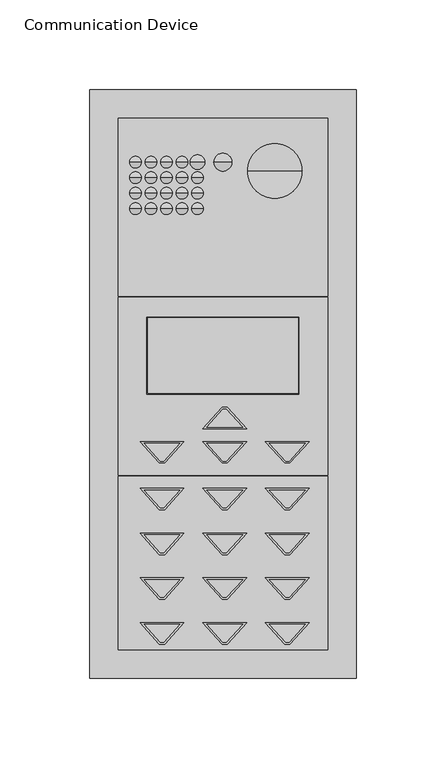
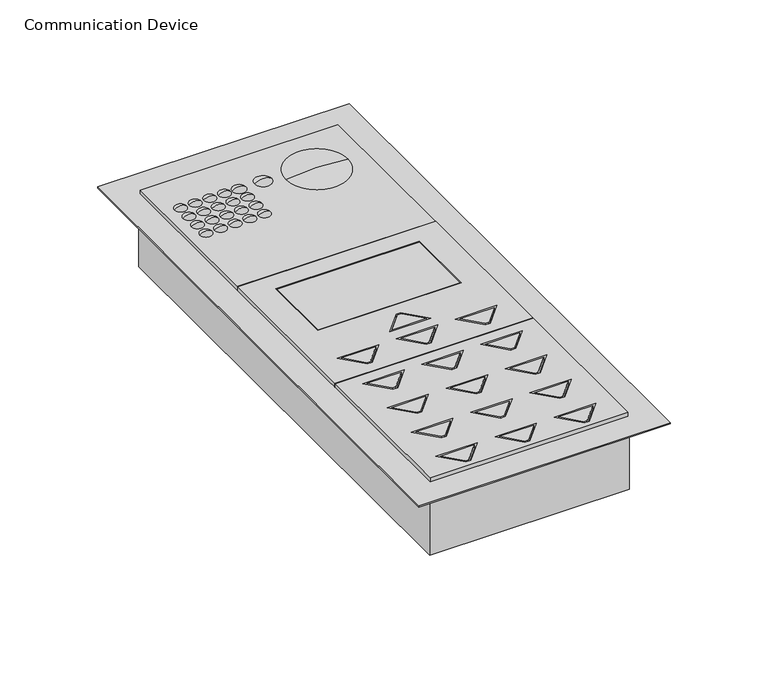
"""IFC4 building model written with IfcOpenShell, lengths in millimetres: electric appliance geometry, E_Communication Device_Intercom_F_MEPcontent_Recessed_Generic : Communication Device."""

from ifc_helpers import new_model, si_unit, point, frame, origin, origin_with_axes, place, context, project, spatial, polyline, circle_curve, ellipse_curve, trimmed, outline, extrude, source, transform, mapped, element, save
from ifc_brep_helpers import plane_surface, revolved_surface, advanced_brep


def communication_device_4de170aa(model_context):
    return source(origin(), model_context, "Body", "SolidModel", [
        advanced_brep(
        [(0.0, 123.9188347, 4.5754841), (-5.0, 123.9188347, 3.0), (5.0, 123.9188347, 3.0), (0.0, 123.9188347, 3.0)],
        [
            (0, 1, circle_curve(frame((0.006244, 123.9188347, -4.1661434), z_axis=(0.0, -1.0, 0.0), x_axis=(-1.0, 0.0, 0.0)), 8.7416297)),
            (1, 2, circle_curve(frame((0.0, 123.9188347, 3.0), z_axis=(0.0, 0.0, 1.0), x_axis=(-1.0, 0.0, 0.0)), 5.0)),
            (2, 0, circle_curve(frame((-0.006244, 123.9188347, -4.1661434), z_axis=(0.0, -1.0, 0.0), x_axis=(1.0, 0.0, 0.0)), 8.7416297)),
            (2, 1, circle_curve(frame((0.0, 123.9188347, 3.0), z_axis=(0.0, 0.0, 1.0), x_axis=(-1.0, 0.0, 0.0)), 5.0)),
            (1, 3),
            (3, 2),
        ],
        [
            revolved_surface(trimmed(ellipse_curve(frame((0.006244, 123.9188347, -4.1661434), z_axis=(0.0, 1.0, 0.0), x_axis=(-1.0, 0.0, 0.0)), 8.7416297, 8.7416297), [point((-5.0, 123.9188347, 3.0))], [point((0.0, 123.9188347, 4.5754841))], True, "CARTESIAN"), (0.0, 123.9188347, 2609.0581012), (0.0, 0.0, 1.0)),
            plane_surface(frame((0.0, 123.9188347, 3.0), z_axis=(0.0, 0.0, -1.0), x_axis=(-1.0, 0.0, 0.0))),
        ],
        [
            (0, [[1, 2, 3]]),
            (0, [[-3, 4, -1]]),
            (1, [[-2, 5, 6]]),
            (1, [[-4, -6, -5]]),
        ],
    ),
        advanced_brep(
        [(-14.2, 123.9188347, 4.5754841), (-18.2324586, 123.9188347, 3.0), (-10.1675414, 123.9188347, 3.0), (-14.2, 123.9188347, 3.0)],
        [
            (0, 1, circle_curve(frame((-14.1775015, 123.9188347, -1.4303907), z_axis=(0.0, -1.0, 0.0), x_axis=(-1.0, 0.0, 0.0)), 6.0059169)),
            (1, 2, circle_curve(frame((-14.2, 123.9188347, 3.0), z_axis=(0.0, 0.0, 1.0), x_axis=(-1.0, 0.0, 0.0)), 4.0324586)),
            (2, 0, circle_curve(frame((-14.2224985, 123.9188347, -1.4303907), z_axis=(0.0, -1.0, 0.0), x_axis=(1.0, 0.0, 0.0)), 6.0059169)),
            (2, 1, circle_curve(frame((-14.2, 123.9188347, 3.0), z_axis=(0.0, 0.0, 1.0), x_axis=(-1.0, 0.0, 0.0)), 4.0324586)),
            (1, 3),
            (3, 2),
        ],
        [
            revolved_surface(trimmed(ellipse_curve(frame((-14.1775015, 123.9188347, -1.4303907), z_axis=(0.0, 1.0, 0.0), x_axis=(-1.0, 0.0, 0.0)), 6.0059169, 6.0059169), [point((-18.2324586, 123.9188347, 3.0))], [point((-14.2, 123.9188347, 4.5754841))], True, "CARTESIAN"), (-14.2, 123.9188347, 2438.4), (0.0, 0.0, 1.0)),
            plane_surface(frame((-14.2, 123.9188347, 3.0), z_axis=(0.0, 0.0, -1.0), x_axis=(-1.0, 0.0, 0.0))),
        ],
        [
            (0, [[1, 2, 3]]),
            (0, [[-3, 4, -1]]),
            (1, [[-2, 5, 6]]),
            (1, [[-4, -6, -5]]),
        ],
    ),
        extrude(outline(polyline([(-58.5, 148.5), (58.5, 148.5), (58.5, 49.0), (-58.5, 49.0), (-58.5, 148.5)])), origin_with_axes(), (0.0, 0.0, 1.0), 3.0),
        extrude(outline(polyline([(-58.5, -51.0), (-58.5, 48.5), (58.5, 48.5), (58.5, -51.0), (-58.5, -51.0)]), holes=[polyline([(-11.2453624, -25.1258805), (13.2453624, -25.1258805), (2.4453624, -13.1258805), (-0.4453624, -13.1258805), (-11.2453624, -25.1258805)]), polyline([(-32.5546376, -44.1258805), (-21.7546376, -32.1258805), (-46.2453624, -32.1258805), (-35.4453624, -44.1258805), (-32.5546376, -44.1258805)]), polyline([(-0.4453624, -44.1258805), (2.4453624, -44.1258805), (13.2453624, -32.1258805), (-11.2453624, -32.1258805), (-0.4453624, -44.1258805)]), polyline([(34.5546376, -44.1258805), (37.4453624, -44.1258805), (48.2453624, -32.1258805), (23.7546376, -32.1258805), (34.5546376, -44.1258805)]), polyline([(42.5, -5.6258805), (42.5, 37.3741195), (-42.5, 37.3741195), (-42.5, -5.6258805), (42.5, -5.6258805)])]), origin_with_axes(), (0.0, 0.0, 1.0), 3.0),
        extrude(outline(polyline([(-58.5, -51.5), (58.5, -51.5), (58.5, -148.5), (-58.5, -148.5), (-58.5, -51.5)]), holes=[polyline([(-46.2453624, -58.25), (-35.4453624, -70.25), (-32.5546376, -70.25), (-21.7546376, -58.25), (-46.2453624, -58.25)]), polyline([(-0.4453624, -70.25), (2.4453624, -70.25), (13.2453624, -58.25), (-11.2453624, -58.25), (-0.4453624, -70.25)]), polyline([(34.5546376, -70.25), (37.4453624, -70.25), (48.2453624, -58.25), (23.7546376, -58.25), (34.5546376, -70.25)]), polyline([(23.7546376, -83.25), (34.5546376, -95.25), (37.4453624, -95.25), (48.2453624, -83.25), (23.7546376, -83.25)]), polyline([(13.2453624, -83.25), (-11.2453624, -83.25), (-0.4453624, -95.25), (2.4453624, -95.25), (13.2453624, -83.25)]), polyline([(-21.7546376, -83.25), (-46.2453624, -83.25), (-35.4453624, -95.25), (-32.5546376, -95.25), (-21.7546376, -83.25)]), polyline([(-32.5546376, -120.25), (-21.7546376, -108.25), (-46.2453624, -108.25), (-35.4453624, -120.25), (-32.5546376, -120.25)]), polyline([(-0.4453624, -120.25), (2.4453624, -120.25), (13.2453624, -108.25), (-11.2453624, -108.25), (-0.4453624, -120.25)]), polyline([(37.4453624, -120.25), (48.2453624, -108.25), (23.7546376, -108.25), (34.5546376, -120.25), (37.4453624, -120.25)]), polyline([(23.7546376, -133.25), (34.5546376, -145.25), (37.4453624, -145.25), (48.2453624, -133.25), (23.7546376, -133.25)]), polyline([(13.2453624, -133.25), (-11.2453624, -133.25), (-0.4453624, -145.25), (2.4453624, -145.25), (13.2453624, -133.25)]), polyline([(-32.5546376, -145.25), (-21.7546376, -133.25), (-46.2453624, -133.25), (-35.4453624, -145.25), (-32.5546376, -145.25)])]), origin_with_axes(), (0.0, 0.0, 1.0), 3.0),
        extrude(outline(polyline([(37.0, -144.25), (35.0, -144.25), (26.0, -134.25), (46.0, -134.25), (37.0, -144.25)])), origin_with_axes(), (0.0, 0.0, 1.0), 3.0),
        extrude(outline(polyline([(2.0, -144.25), (0.0, -144.25), (-9.0, -134.25), (11.0, -134.25), (2.0, -144.25)])), origin_with_axes(), (0.0, 0.0, 1.0), 3.0),
        extrude(outline(polyline([(-33.0, -144.25), (-35.0, -144.25), (-44.0, -134.25), (-24.0, -134.25), (-33.0, -144.25)])), origin_with_axes(), (0.0, 0.0, 1.0), 3.0),
        extrude(outline(polyline([(-33.0, -119.25), (-35.0, -119.25), (-44.0, -109.25), (-24.0, -109.25), (-33.0, -119.25)])), origin_with_axes(), (0.0, 0.0, 1.0), 3.0),
        extrude(outline(polyline([(2.0, -119.25), (0.0, -119.25), (-9.0, -109.25), (11.0, -109.25), (2.0, -119.25)])), origin_with_axes(), (0.0, 0.0, 1.0), 3.0),
        extrude(outline(polyline([(37.0, -119.25), (35.0, -119.25), (26.0, -109.25), (46.0, -109.25), (37.0, -119.25)])), origin_with_axes(), (0.0, 0.0, 1.0), 3.0),
        extrude(outline(polyline([(37.0, -94.25), (35.0, -94.25), (26.0, -84.25), (46.0, -84.25), (37.0, -94.25)])), origin_with_axes(), (0.0, 0.0, 1.0), 3.0),
        extrude(outline(polyline([(2.0, -94.25), (0.0, -94.25), (-9.0, -84.25), (11.0, -84.25), (2.0, -94.25)])), origin_with_axes(), (0.0, 0.0, 1.0), 3.0),
        extrude(outline(polyline([(-33.0, -94.25), (-35.0, -94.25), (-44.0, -84.25), (-24.0, -84.25), (-33.0, -94.25)])), origin_with_axes(), (0.0, 0.0, 1.0), 3.0),
        extrude(outline(polyline([(-33.0, -69.25), (-35.0, -69.25), (-44.0, -59.25), (-24.0, -59.25), (-33.0, -69.25)])), frame((0.0, 0.0, 0.8241878), z_axis=(0.0, 0.0, 1.0), x_axis=(1.0, 0.0, 0.0)), (0.0, 0.0, 1.0), 2.1758122),
        extrude(outline(polyline([(2.0, -69.25), (0.0, -69.25), (-9.0, -59.25), (11.0, -59.25), (2.0, -69.25)])), frame((0.0, 0.0, 0.8241878), z_axis=(0.0, 0.0, 1.0), x_axis=(1.0, 0.0, 0.0)), (0.0, 0.0, 1.0), 2.1758122),
        extrude(outline(polyline([(-33.0, -43.1258805), (-35.0, -43.1258805), (-44.0, -33.1258805), (-24.0, -33.1258805), (-33.0, -43.1258805)])), frame((0.0, 0.0, 0.8241878), z_axis=(0.0, 0.0, 1.0), x_axis=(1.0, 0.0, 0.0)), (0.0, 0.0, 1.0), 2.1758122),
        extrude(outline(polyline([(2.0, -43.1258805), (0.0, -43.1258805), (-9.0, -33.1258805), (11.0, -33.1258805), (2.0, -43.1258805)])), frame((0.0, 0.0, 0.8241878), z_axis=(0.0, 0.0, 1.0), x_axis=(1.0, 0.0, 0.0)), (0.0, 0.0, 1.0), 2.1758122),
        extrude(outline(polyline([(37.0, -43.1258805), (35.0, -43.1258805), (26.0, -33.1258805), (46.0, -33.1258805), (37.0, -43.1258805)])), frame((0.0, 0.0, 0.8241878), z_axis=(0.0, 0.0, 1.0), x_axis=(1.0, 0.0, 0.0)), (0.0, 0.0, 1.0), 2.1758122),
        extrude(outline(polyline([(37.0, -69.25), (35.0, -69.25), (26.0, -59.25), (46.0, -59.25), (37.0, -69.25)])), origin_with_axes(), (0.0, 0.0, 1.0), 3.0),
        extrude(outline(polyline([(0.0, -14.1258805), (2.0, -14.1258805), (11.0, -24.1258805), (-9.0, -24.1258805), (0.0, -14.1258805)])), frame((0.0, 0.0, 0.8241878), z_axis=(0.0, 0.0, 1.0), x_axis=(1.0, 0.0, 0.0)), (0.0, 0.0, 1.0), 2.1758122),
        advanced_brep(
        [(-14.2, 97.9388347, 4.5754841), (-18.2324586, 97.9388347, 3.0), (-10.1675414, 97.9388347, 3.0), (-14.2, 97.9388347, 3.0)],
        [
            (0, 1, circle_curve(frame((-14.1775015, 97.9388347, -1.4303907), z_axis=(0.0, -1.0, 0.0), x_axis=(-1.0, 0.0, 0.0)), 6.0059169)),
            (1, 2, circle_curve(frame((-14.2, 97.9388347, 3.0), z_axis=(0.0, 0.0, 1.0), x_axis=(-1.0, 0.0, 0.0)), 4.0324586)),
            (2, 0, circle_curve(frame((-14.2224985, 97.9388347, -1.4303907), z_axis=(0.0, -1.0, 0.0), x_axis=(1.0, 0.0, 0.0)), 6.0059169)),
            (2, 1, circle_curve(frame((-14.2, 97.9388347, 3.0), z_axis=(0.0, 0.0, 1.0), x_axis=(-1.0, 0.0, 0.0)), 4.0324586)),
            (1, 3),
            (3, 2),
        ],
        [
            revolved_surface(trimmed(ellipse_curve(frame((-14.1775015, 97.9388347, -1.4303907), z_axis=(0.0, 1.0, 0.0), x_axis=(-1.0, 0.0, 0.0)), 6.0059169, 6.0059169), [point((-18.2324586, 97.9388347, 3.0))], [point((-14.2, 97.9388347, 4.5754841))], True, "CARTESIAN"), (-14.2, 97.9388347, 2438.4), (0.0, 0.0, 1.0)),
            plane_surface(frame((-14.2, 97.9388347, 3.0), z_axis=(0.0, 0.0, -1.0), x_axis=(-1.0, 0.0, 0.0))),
        ],
        [
            (0, [[1, 2, 3]]),
            (0, [[-3, 4, -1]]),
            (1, [[-2, 5, 6]]),
            (1, [[-4, -6, -5]]),
        ],
    ),
        advanced_brep(
        [(-22.86, 97.9388347, 4.5754841), (-26.8924586, 97.9388347, 3.0), (-18.8275414, 97.9388347, 3.0), (-22.86, 97.9388347, 3.0)],
        [
            (0, 1, circle_curve(frame((-22.8375015, 97.9388347, -1.4303907), z_axis=(0.0, -1.0, 0.0), x_axis=(-1.0, 0.0, 0.0)), 6.0059169)),
            (1, 2, circle_curve(frame((-22.86, 97.9388347, 3.0), z_axis=(0.0, 0.0, 1.0), x_axis=(-1.0, 0.0, 0.0)), 4.0324586)),
            (2, 0, circle_curve(frame((-22.8824985, 97.9388347, -1.4303907), z_axis=(0.0, -1.0, 0.0), x_axis=(1.0, 0.0, 0.0)), 6.0059169)),
            (2, 1, circle_curve(frame((-22.86, 97.9388347, 3.0), z_axis=(0.0, 0.0, 1.0), x_axis=(-1.0, 0.0, 0.0)), 4.0324586)),
            (1, 3),
            (3, 2),
        ],
        [
            revolved_surface(trimmed(ellipse_curve(frame((-22.8375015, 97.9388347, -1.4303907), z_axis=(0.0, 1.0, 0.0), x_axis=(-1.0, 0.0, 0.0)), 6.0059169, 6.0059169), [point((-26.8924586, 97.9388347, 3.0))], [point((-22.86, 97.9388347, 4.5754841))], True, "CARTESIAN"), (-22.86, 97.9388347, 2438.4), (0.0, 0.0, 1.0)),
            plane_surface(frame((-22.86, 97.9388347, 3.0), z_axis=(0.0, 0.0, -1.0), x_axis=(-1.0, 0.0, 0.0))),
        ],
        [
            (0, [[1, 2, 3]]),
            (0, [[-3, 4, -1]]),
            (1, [[-2, 5, 6]]),
            (1, [[-4, -6, -5]]),
        ],
    ),
        advanced_brep(
        [(-31.52, 97.9388347, 4.5754841), (-35.5524586, 97.9388347, 3.0), (-27.4875414, 97.9388347, 3.0), (-31.52, 97.9388347, 3.0)],
        [
            (0, 1, circle_curve(frame((-31.4975015, 97.9388347, -1.4303907), z_axis=(0.0, -1.0, 0.0), x_axis=(-1.0, 0.0, 0.0)), 6.0059169)),
            (1, 2, circle_curve(frame((-31.52, 97.9388347, 3.0), z_axis=(0.0, 0.0, 1.0), x_axis=(-1.0, 0.0, 0.0)), 4.0324586)),
            (2, 0, circle_curve(frame((-31.5424985, 97.9388347, -1.4303907), z_axis=(0.0, -1.0, 0.0), x_axis=(1.0, 0.0, 0.0)), 6.0059169)),
            (2, 1, circle_curve(frame((-31.52, 97.9388347, 3.0), z_axis=(0.0, 0.0, 1.0), x_axis=(-1.0, 0.0, 0.0)), 4.0324586)),
            (1, 3),
            (3, 2),
        ],
        [
            revolved_surface(trimmed(ellipse_curve(frame((-31.4975015, 97.9388347, -1.4303907), z_axis=(0.0, 1.0, 0.0), x_axis=(-1.0, 0.0, 0.0)), 6.0059169, 6.0059169), [point((-35.5524586, 97.9388347, 3.0))], [point((-31.52, 97.9388347, 4.5754841))], True, "CARTESIAN"), (-31.52, 97.9388347, 2438.4), (0.0, 0.0, 1.0)),
            plane_surface(frame((-31.52, 97.9388347, 3.0), z_axis=(0.0, 0.0, -1.0), x_axis=(-1.0, 0.0, 0.0))),
        ],
        [
            (0, [[1, 2, 3]]),
            (0, [[-3, 4, -1]]),
            (1, [[-2, 5, 6]]),
            (1, [[-4, -6, -5]]),
        ],
    ),
        advanced_brep(
        [(-40.18, 97.9388347, 4.5754841), (-44.2124586, 97.9388347, 3.0), (-36.1475414, 97.9388347, 3.0), (-40.18, 97.9388347, 3.0)],
        [
            (0, 1, circle_curve(frame((-40.1575015, 97.9388347, -1.4303907), z_axis=(0.0, -1.0, 0.0), x_axis=(-1.0, 0.0, 0.0)), 6.0059169)),
            (1, 2, circle_curve(frame((-40.18, 97.9388347, 3.0), z_axis=(0.0, 0.0, 1.0), x_axis=(-1.0, 0.0, 0.0)), 4.0324586)),
            (2, 0, circle_curve(frame((-40.2024985, 97.9388347, -1.4303907), z_axis=(0.0, -1.0, 0.0), x_axis=(1.0, 0.0, 0.0)), 6.0059169)),
            (2, 1, circle_curve(frame((-40.18, 97.9388347, 3.0), z_axis=(0.0, 0.0, 1.0), x_axis=(-1.0, 0.0, 0.0)), 4.0324586)),
            (1, 3),
            (3, 2),
        ],
        [
            revolved_surface(trimmed(ellipse_curve(frame((-40.1575015, 97.9388347, -1.4303907), z_axis=(0.0, 1.0, 0.0), x_axis=(-1.0, 0.0, 0.0)), 6.0059169, 6.0059169), [point((-44.2124586, 97.9388347, 3.0))], [point((-40.18, 97.9388347, 4.5754841))], True, "CARTESIAN"), (-40.18, 97.9388347, 2438.4), (0.0, 0.0, 1.0)),
            plane_surface(frame((-40.18, 97.9388347, 3.0), z_axis=(0.0, 0.0, -1.0), x_axis=(-1.0, 0.0, 0.0))),
        ],
        [
            (0, [[1, 2, 3]]),
            (0, [[-3, 4, -1]]),
            (1, [[-2, 5, 6]]),
            (1, [[-4, -6, -5]]),
        ],
    ),
        advanced_brep(
        [(-48.84, 97.9388347, 4.5754841), (-52.8724586, 97.9388347, 3.0), (-44.8075414, 97.9388347, 3.0), (-48.84, 97.9388347, 3.0)],
        [
            (0, 1, circle_curve(frame((-48.8175015, 97.9388347, -1.4303907), z_axis=(0.0, -1.0, 0.0), x_axis=(-1.0, 0.0, 0.0)), 6.0059169)),
            (1, 2, circle_curve(frame((-48.84, 97.9388347, 3.0), z_axis=(0.0, 0.0, 1.0), x_axis=(-1.0, 0.0, 0.0)), 4.0324586)),
            (2, 0, circle_curve(frame((-48.8624985, 97.9388347, -1.4303907), z_axis=(0.0, -1.0, 0.0), x_axis=(1.0, 0.0, 0.0)), 6.0059169)),
            (2, 1, circle_curve(frame((-48.84, 97.9388347, 3.0), z_axis=(0.0, 0.0, 1.0), x_axis=(-1.0, 0.0, 0.0)), 4.0324586)),
            (1, 3),
            (3, 2),
        ],
        [
            revolved_surface(trimmed(ellipse_curve(frame((-48.8175015, 97.9388347, -1.4303907), z_axis=(0.0, 1.0, 0.0), x_axis=(-1.0, 0.0, 0.0)), 6.0059169, 6.0059169), [point((-52.8724586, 97.9388347, 3.0))], [point((-48.84, 97.9388347, 4.5754841))], True, "CARTESIAN"), (-48.84, 97.9388347, 2438.4), (0.0, 0.0, 1.0)),
            plane_surface(frame((-48.84, 97.9388347, 3.0), z_axis=(0.0, 0.0, -1.0), x_axis=(-1.0, 0.0, 0.0))),
        ],
        [
            (0, [[1, 2, 3]]),
            (0, [[-3, 4, -1]]),
            (1, [[-2, 5, 6]]),
            (1, [[-4, -6, -5]]),
        ],
    ),
        advanced_brep(
        [(-14.2, 106.5988347, 4.5754841), (-18.2324586, 106.5988347, 3.0), (-10.1675414, 106.5988347, 3.0), (-14.2, 106.5988347, 3.0)],
        [
            (0, 1, circle_curve(frame((-14.1775015, 106.5988347, -1.4303907), z_axis=(0.0, -1.0, 0.0), x_axis=(-1.0, 0.0, 0.0)), 6.0059169)),
            (1, 2, circle_curve(frame((-14.2, 106.5988347, 3.0), z_axis=(0.0, 0.0, 1.0), x_axis=(-1.0, 0.0, 0.0)), 4.0324586)),
            (2, 0, circle_curve(frame((-14.2224985, 106.5988347, -1.4303907), z_axis=(0.0, -1.0, 0.0), x_axis=(1.0, 0.0, 0.0)), 6.0059169)),
            (2, 1, circle_curve(frame((-14.2, 106.5988347, 3.0), z_axis=(0.0, 0.0, 1.0), x_axis=(-1.0, 0.0, 0.0)), 4.0324586)),
            (1, 3),
            (3, 2),
        ],
        [
            revolved_surface(trimmed(ellipse_curve(frame((-14.1775015, 106.5988347, -1.4303907), z_axis=(0.0, 1.0, 0.0), x_axis=(-1.0, 0.0, 0.0)), 6.0059169, 6.0059169), [point((-18.2324586, 106.5988347, 3.0))], [point((-14.2, 106.5988347, 4.5754841))], True, "CARTESIAN"), (-14.2, 106.5988347, 2438.4), (0.0, 0.0, 1.0)),
            plane_surface(frame((-14.2, 106.5988347, 3.0), z_axis=(0.0, 0.0, -1.0), x_axis=(-1.0, 0.0, 0.0))),
        ],
        [
            (0, [[1, 2, 3]]),
            (0, [[-3, 4, -1]]),
            (1, [[-2, 5, 6]]),
            (1, [[-4, -6, -5]]),
        ],
    ),
        advanced_brep(
        [(-22.86, 106.5988347, 4.5754841), (-26.8924586, 106.5988347, 3.0), (-18.8275414, 106.5988347, 3.0), (-22.86, 106.5988347, 3.0)],
        [
            (0, 1, circle_curve(frame((-22.8375015, 106.5988347, -1.4303907), z_axis=(0.0, -1.0, 0.0), x_axis=(-1.0, 0.0, 0.0)), 6.0059169)),
            (1, 2, circle_curve(frame((-22.86, 106.5988347, 3.0), z_axis=(0.0, 0.0, 1.0), x_axis=(-1.0, 0.0, 0.0)), 4.0324586)),
            (2, 0, circle_curve(frame((-22.8824985, 106.5988347, -1.4303907), z_axis=(0.0, -1.0, 0.0), x_axis=(1.0, 0.0, 0.0)), 6.0059169)),
            (2, 1, circle_curve(frame((-22.86, 106.5988347, 3.0), z_axis=(0.0, 0.0, 1.0), x_axis=(-1.0, 0.0, 0.0)), 4.0324586)),
            (1, 3),
            (3, 2),
        ],
        [
            revolved_surface(trimmed(ellipse_curve(frame((-22.8375015, 106.5988347, -1.4303907), z_axis=(0.0, 1.0, 0.0), x_axis=(-1.0, 0.0, 0.0)), 6.0059169, 6.0059169), [point((-26.8924586, 106.5988347, 3.0))], [point((-22.86, 106.5988347, 4.5754841))], True, "CARTESIAN"), (-22.86, 106.5988347, 2438.4), (0.0, 0.0, 1.0)),
            plane_surface(frame((-22.86, 106.5988347, 3.0), z_axis=(0.0, 0.0, -1.0), x_axis=(-1.0, 0.0, 0.0))),
        ],
        [
            (0, [[1, 2, 3]]),
            (0, [[-3, 4, -1]]),
            (1, [[-2, 5, 6]]),
            (1, [[-4, -6, -5]]),
        ],
    ),
        advanced_brep(
        [(-31.52, 106.5988347, 4.5754841), (-35.5524586, 106.5988347, 3.0), (-27.4875414, 106.5988347, 3.0), (-31.52, 106.5988347, 3.0)],
        [
            (0, 1, circle_curve(frame((-31.4975015, 106.5988347, -1.4303907), z_axis=(0.0, -1.0, 0.0), x_axis=(-1.0, 0.0, 0.0)), 6.0059169)),
            (1, 2, circle_curve(frame((-31.52, 106.5988347, 3.0), z_axis=(0.0, 0.0, 1.0), x_axis=(-1.0, 0.0, 0.0)), 4.0324586)),
            (2, 0, circle_curve(frame((-31.5424985, 106.5988347, -1.4303907), z_axis=(0.0, -1.0, 0.0), x_axis=(1.0, 0.0, 0.0)), 6.0059169)),
            (2, 1, circle_curve(frame((-31.52, 106.5988347, 3.0), z_axis=(0.0, 0.0, 1.0), x_axis=(-1.0, 0.0, 0.0)), 4.0324586)),
            (1, 3),
            (3, 2),
        ],
        [
            revolved_surface(trimmed(ellipse_curve(frame((-31.4975015, 106.5988347, -1.4303907), z_axis=(0.0, 1.0, 0.0), x_axis=(-1.0, 0.0, 0.0)), 6.0059169, 6.0059169), [point((-35.5524586, 106.5988347, 3.0))], [point((-31.52, 106.5988347, 4.5754841))], True, "CARTESIAN"), (-31.52, 106.5988347, 2438.4), (0.0, 0.0, 1.0)),
            plane_surface(frame((-31.52, 106.5988347, 3.0), z_axis=(0.0, 0.0, -1.0), x_axis=(-1.0, 0.0, 0.0))),
        ],
        [
            (0, [[1, 2, 3]]),
            (0, [[-3, 4, -1]]),
            (1, [[-2, 5, 6]]),
            (1, [[-4, -6, -5]]),
        ],
    ),
        advanced_brep(
        [(-40.18, 106.5988347, 4.5754841), (-44.2124586, 106.5988347, 3.0), (-36.1475414, 106.5988347, 3.0), (-40.18, 106.5988347, 3.0)],
        [
            (0, 1, circle_curve(frame((-40.1575015, 106.5988347, -1.4303907), z_axis=(0.0, -1.0, 0.0), x_axis=(-1.0, 0.0, 0.0)), 6.0059169)),
            (1, 2, circle_curve(frame((-40.18, 106.5988347, 3.0), z_axis=(0.0, 0.0, 1.0), x_axis=(-1.0, 0.0, 0.0)), 4.0324586)),
            (2, 0, circle_curve(frame((-40.2024985, 106.5988347, -1.4303907), z_axis=(0.0, -1.0, 0.0), x_axis=(1.0, 0.0, 0.0)), 6.0059169)),
            (2, 1, circle_curve(frame((-40.18, 106.5988347, 3.0), z_axis=(0.0, 0.0, 1.0), x_axis=(-1.0, 0.0, 0.0)), 4.0324586)),
            (1, 3),
            (3, 2),
        ],
        [
            revolved_surface(trimmed(ellipse_curve(frame((-40.1575015, 106.5988347, -1.4303907), z_axis=(0.0, 1.0, 0.0), x_axis=(-1.0, 0.0, 0.0)), 6.0059169, 6.0059169), [point((-44.2124586, 106.5988347, 3.0))], [point((-40.18, 106.5988347, 4.5754841))], True, "CARTESIAN"), (-40.18, 106.5988347, 2438.4), (0.0, 0.0, 1.0)),
            plane_surface(frame((-40.18, 106.5988347, 3.0), z_axis=(0.0, 0.0, -1.0), x_axis=(-1.0, 0.0, 0.0))),
        ],
        [
            (0, [[1, 2, 3]]),
            (0, [[-3, 4, -1]]),
            (1, [[-2, 5, 6]]),
            (1, [[-4, -6, -5]]),
        ],
    ),
        advanced_brep(
        [(-48.84, 106.5988347, 4.5754841), (-52.8724586, 106.5988347, 3.0), (-44.8075414, 106.5988347, 3.0), (-48.84, 106.5988347, 3.0)],
        [
            (0, 1, circle_curve(frame((-48.8175015, 106.5988347, -1.4303907), z_axis=(0.0, -1.0, 0.0), x_axis=(-1.0, 0.0, 0.0)), 6.0059169)),
            (1, 2, circle_curve(frame((-48.84, 106.5988347, 3.0), z_axis=(0.0, 0.0, 1.0), x_axis=(-1.0, 0.0, 0.0)), 4.0324586)),
            (2, 0, circle_curve(frame((-48.8624985, 106.5988347, -1.4303907), z_axis=(0.0, -1.0, 0.0), x_axis=(1.0, 0.0, 0.0)), 6.0059169)),
            (2, 1, circle_curve(frame((-48.84, 106.5988347, 3.0), z_axis=(0.0, 0.0, 1.0), x_axis=(-1.0, 0.0, 0.0)), 4.0324586)),
            (1, 3),
            (3, 2),
        ],
        [
            revolved_surface(trimmed(ellipse_curve(frame((-48.8175015, 106.5988347, -1.4303907), z_axis=(0.0, 1.0, 0.0), x_axis=(-1.0, 0.0, 0.0)), 6.0059169, 6.0059169), [point((-52.8724586, 106.5988347, 3.0))], [point((-48.84, 106.5988347, 4.5754841))], True, "CARTESIAN"), (-48.84, 106.5988347, 2438.4), (0.0, 0.0, 1.0)),
            plane_surface(frame((-48.84, 106.5988347, 3.0), z_axis=(0.0, 0.0, -1.0), x_axis=(-1.0, 0.0, 0.0))),
        ],
        [
            (0, [[1, 2, 3]]),
            (0, [[-3, 4, -1]]),
            (1, [[-2, 5, 6]]),
            (1, [[-4, -6, -5]]),
        ],
    ),
        advanced_brep(
        [(-14.2, 115.2588347, 4.5754841), (-18.2324586, 115.2588347, 3.0), (-10.1675414, 115.2588347, 3.0), (-14.2, 115.2588347, 3.0)],
        [
            (0, 1, circle_curve(frame((-14.1775015, 115.2588347, -1.4303907), z_axis=(0.0, -1.0, 0.0), x_axis=(-1.0, 0.0, 0.0)), 6.0059169)),
            (1, 2, circle_curve(frame((-14.2, 115.2588347, 3.0), z_axis=(0.0, 0.0, 1.0), x_axis=(-1.0, 0.0, 0.0)), 4.0324586)),
            (2, 0, circle_curve(frame((-14.2224985, 115.2588347, -1.4303907), z_axis=(0.0, -1.0, 0.0), x_axis=(1.0, 0.0, 0.0)), 6.0059169)),
            (2, 1, circle_curve(frame((-14.2, 115.2588347, 3.0), z_axis=(0.0, 0.0, 1.0), x_axis=(-1.0, 0.0, 0.0)), 4.0324586)),
            (1, 3),
            (3, 2),
        ],
        [
            revolved_surface(trimmed(ellipse_curve(frame((-14.1775015, 115.2588347, -1.4303907), z_axis=(0.0, 1.0, 0.0), x_axis=(-1.0, 0.0, 0.0)), 6.0059169, 6.0059169), [point((-18.2324586, 115.2588347, 3.0))], [point((-14.2, 115.2588347, 4.5754841))], True, "CARTESIAN"), (-14.2, 115.2588347, 2438.4), (0.0, 0.0, 1.0)),
            plane_surface(frame((-14.2, 115.2588347, 3.0), z_axis=(0.0, 0.0, -1.0), x_axis=(-1.0, 0.0, 0.0))),
        ],
        [
            (0, [[1, 2, 3]]),
            (0, [[-3, 4, -1]]),
            (1, [[-2, 5, 6]]),
            (1, [[-4, -6, -5]]),
        ],
    ),
        advanced_brep(
        [(-22.86, 115.2588347, 4.5754841), (-26.8924586, 115.2588347, 3.0), (-18.8275414, 115.2588347, 3.0), (-22.86, 115.2588347, 3.0)],
        [
            (0, 1, circle_curve(frame((-22.8375015, 115.2588347, -1.4303907), z_axis=(0.0, -1.0, 0.0), x_axis=(-1.0, 0.0, 0.0)), 6.0059169)),
            (1, 2, circle_curve(frame((-22.86, 115.2588347, 3.0), z_axis=(0.0, 0.0, 1.0), x_axis=(-1.0, 0.0, 0.0)), 4.0324586)),
            (2, 0, circle_curve(frame((-22.8824985, 115.2588347, -1.4303907), z_axis=(0.0, -1.0, 0.0), x_axis=(1.0, 0.0, 0.0)), 6.0059169)),
            (2, 1, circle_curve(frame((-22.86, 115.2588347, 3.0), z_axis=(0.0, 0.0, 1.0), x_axis=(-1.0, 0.0, 0.0)), 4.0324586)),
            (1, 3),
            (3, 2),
        ],
        [
            revolved_surface(trimmed(ellipse_curve(frame((-22.8375015, 115.2588347, -1.4303907), z_axis=(0.0, 1.0, 0.0), x_axis=(-1.0, 0.0, 0.0)), 6.0059169, 6.0059169), [point((-26.8924586, 115.2588347, 3.0))], [point((-22.86, 115.2588347, 4.5754841))], True, "CARTESIAN"), (-22.86, 115.2588347, 2438.4), (0.0, 0.0, 1.0)),
            plane_surface(frame((-22.86, 115.2588347, 3.0), z_axis=(0.0, 0.0, -1.0), x_axis=(-1.0, 0.0, 0.0))),
        ],
        [
            (0, [[1, 2, 3]]),
            (0, [[-3, 4, -1]]),
            (1, [[-2, 5, 6]]),
            (1, [[-4, -6, -5]]),
        ],
    ),
        advanced_brep(
        [(-31.52, 115.2588347, 4.5754841), (-35.5524586, 115.2588347, 3.0), (-27.4875414, 115.2588347, 3.0), (-31.52, 115.2588347, 3.0)],
        [
            (0, 1, circle_curve(frame((-31.4975015, 115.2588347, -1.4303907), z_axis=(0.0, -1.0, 0.0), x_axis=(-1.0, 0.0, 0.0)), 6.0059169)),
            (1, 2, circle_curve(frame((-31.52, 115.2588347, 3.0), z_axis=(0.0, 0.0, 1.0), x_axis=(-1.0, 0.0, 0.0)), 4.0324586)),
            (2, 0, circle_curve(frame((-31.5424985, 115.2588347, -1.4303907), z_axis=(0.0, -1.0, 0.0), x_axis=(1.0, 0.0, 0.0)), 6.0059169)),
            (2, 1, circle_curve(frame((-31.52, 115.2588347, 3.0), z_axis=(0.0, 0.0, 1.0), x_axis=(-1.0, 0.0, 0.0)), 4.0324586)),
            (1, 3),
            (3, 2),
        ],
        [
            revolved_surface(trimmed(ellipse_curve(frame((-31.4975015, 115.2588347, -1.4303907), z_axis=(0.0, 1.0, 0.0), x_axis=(-1.0, 0.0, 0.0)), 6.0059169, 6.0059169), [point((-35.5524586, 115.2588347, 3.0))], [point((-31.52, 115.2588347, 4.5754841))], True, "CARTESIAN"), (-31.52, 115.2588347, 2438.4), (0.0, 0.0, 1.0)),
            plane_surface(frame((-31.52, 115.2588347, 3.0), z_axis=(0.0, 0.0, -1.0), x_axis=(-1.0, 0.0, 0.0))),
        ],
        [
            (0, [[1, 2, 3]]),
            (0, [[-3, 4, -1]]),
            (1, [[-2, 5, 6]]),
            (1, [[-4, -6, -5]]),
        ],
    ),
        advanced_brep(
        [(-40.18, 115.2588347, 4.5754841), (-44.2124586, 115.2588347, 3.0), (-36.1475414, 115.2588347, 3.0), (-40.18, 115.2588347, 3.0)],
        [
            (0, 1, circle_curve(frame((-40.1575015, 115.2588347, -1.4303907), z_axis=(0.0, -1.0, 0.0), x_axis=(-1.0, 0.0, 0.0)), 6.0059169)),
            (1, 2, circle_curve(frame((-40.18, 115.2588347, 3.0), z_axis=(0.0, 0.0, 1.0), x_axis=(-1.0, 0.0, 0.0)), 4.0324586)),
            (2, 0, circle_curve(frame((-40.2024985, 115.2588347, -1.4303907), z_axis=(0.0, -1.0, 0.0), x_axis=(1.0, 0.0, 0.0)), 6.0059169)),
            (2, 1, circle_curve(frame((-40.18, 115.2588347, 3.0), z_axis=(0.0, 0.0, 1.0), x_axis=(-1.0, 0.0, 0.0)), 4.0324586)),
            (1, 3),
            (3, 2),
        ],
        [
            revolved_surface(trimmed(ellipse_curve(frame((-40.1575015, 115.2588347, -1.4303907), z_axis=(0.0, 1.0, 0.0), x_axis=(-1.0, 0.0, 0.0)), 6.0059169, 6.0059169), [point((-44.2124586, 115.2588347, 3.0))], [point((-40.18, 115.2588347, 4.5754841))], True, "CARTESIAN"), (-40.18, 115.2588347, 2438.4), (0.0, 0.0, 1.0)),
            plane_surface(frame((-40.18, 115.2588347, 3.0), z_axis=(0.0, 0.0, -1.0), x_axis=(-1.0, 0.0, 0.0))),
        ],
        [
            (0, [[1, 2, 3]]),
            (0, [[-3, 4, -1]]),
            (1, [[-2, 5, 6]]),
            (1, [[-4, -6, -5]]),
        ],
    ),
        advanced_brep(
        [(-48.84, 115.2588347, 4.5754841), (-52.8724586, 115.2588347, 3.0), (-44.8075414, 115.2588347, 3.0), (-48.84, 115.2588347, 3.0)],
        [
            (0, 1, circle_curve(frame((-48.8175015, 115.2588347, -1.4303907), z_axis=(0.0, -1.0, 0.0), x_axis=(-1.0, 0.0, 0.0)), 6.0059169)),
            (1, 2, circle_curve(frame((-48.84, 115.2588347, 3.0), z_axis=(0.0, 0.0, 1.0), x_axis=(-1.0, 0.0, 0.0)), 4.0324586)),
            (2, 0, circle_curve(frame((-48.8624985, 115.2588347, -1.4303907), z_axis=(0.0, -1.0, 0.0), x_axis=(1.0, 0.0, 0.0)), 6.0059169)),
            (2, 1, circle_curve(frame((-48.84, 115.2588347, 3.0), z_axis=(0.0, 0.0, 1.0), x_axis=(-1.0, 0.0, 0.0)), 4.0324586)),
            (1, 3),
            (3, 2),
        ],
        [
            revolved_surface(trimmed(ellipse_curve(frame((-48.8175015, 115.2588347, -1.4303907), z_axis=(0.0, 1.0, 0.0), x_axis=(-1.0, 0.0, 0.0)), 6.0059169, 6.0059169), [point((-52.8724586, 115.2588347, 3.0))], [point((-48.84, 115.2588347, 4.5754841))], True, "CARTESIAN"), (-48.84, 115.2588347, 2438.4), (0.0, 0.0, 1.0)),
            plane_surface(frame((-48.84, 115.2588347, 3.0), z_axis=(0.0, 0.0, -1.0), x_axis=(-1.0, 0.0, 0.0))),
        ],
        [
            (0, [[1, 2, 3]]),
            (0, [[-3, 4, -1]]),
            (1, [[-2, 5, 6]]),
            (1, [[-4, -6, -5]]),
        ],
    ),
        advanced_brep(
        [(-22.86, 123.9188347, 4.5754841), (-26.8924586, 123.9188347, 3.0), (-18.8275414, 123.9188347, 3.0), (-22.86, 123.9188347, 3.0)],
        [
            (0, 1, circle_curve(frame((-22.8375015, 123.9188347, -1.4303907), z_axis=(0.0, -1.0, 0.0), x_axis=(-1.0, 0.0, 0.0)), 6.0059169)),
            (1, 2, circle_curve(frame((-22.86, 123.9188347, 3.0), z_axis=(0.0, 0.0, 1.0), x_axis=(-1.0, 0.0, 0.0)), 4.0324586)),
            (2, 0, circle_curve(frame((-22.8824985, 123.9188347, -1.4303907), z_axis=(0.0, -1.0, 0.0), x_axis=(1.0, 0.0, 0.0)), 6.0059169)),
            (2, 1, circle_curve(frame((-22.86, 123.9188347, 3.0), z_axis=(0.0, 0.0, 1.0), x_axis=(-1.0, 0.0, 0.0)), 4.0324586)),
            (1, 3),
            (3, 2),
        ],
        [
            revolved_surface(trimmed(ellipse_curve(frame((-22.8375015, 123.9188347, -1.4303907), z_axis=(0.0, 1.0, 0.0), x_axis=(-1.0, 0.0, 0.0)), 6.0059169, 6.0059169), [point((-26.8924586, 123.9188347, 3.0))], [point((-22.86, 123.9188347, 4.5754841))], True, "CARTESIAN"), (-22.86, 123.9188347, 2438.4), (0.0, 0.0, 1.0)),
            plane_surface(frame((-22.86, 123.9188347, 3.0), z_axis=(0.0, 0.0, -1.0), x_axis=(-1.0, 0.0, 0.0))),
        ],
        [
            (0, [[1, 2, 3]]),
            (0, [[-3, 4, -1]]),
            (1, [[-2, 5, 6]]),
            (1, [[-4, -6, -5]]),
        ],
    ),
        advanced_brep(
        [(-31.52, 123.9188347, 4.5754841), (-35.5524586, 123.9188347, 3.0), (-27.4875414, 123.9188347, 3.0), (-31.52, 123.9188347, 3.0)],
        [
            (0, 1, circle_curve(frame((-31.4975015, 123.9188347, -1.4303907), z_axis=(0.0, -1.0, 0.0), x_axis=(-1.0, 0.0, 0.0)), 6.0059169)),
            (1, 2, circle_curve(frame((-31.52, 123.9188347, 3.0), z_axis=(0.0, 0.0, 1.0), x_axis=(-1.0, 0.0, 0.0)), 4.0324586)),
            (2, 0, circle_curve(frame((-31.5424985, 123.9188347, -1.4303907), z_axis=(0.0, -1.0, 0.0), x_axis=(1.0, 0.0, 0.0)), 6.0059169)),
            (2, 1, circle_curve(frame((-31.52, 123.9188347, 3.0), z_axis=(0.0, 0.0, 1.0), x_axis=(-1.0, 0.0, 0.0)), 4.0324586)),
            (1, 3),
            (3, 2),
        ],
        [
            revolved_surface(trimmed(ellipse_curve(frame((-31.4975015, 123.9188347, -1.4303907), z_axis=(0.0, 1.0, 0.0), x_axis=(-1.0, 0.0, 0.0)), 6.0059169, 6.0059169), [point((-35.5524586, 123.9188347, 3.0))], [point((-31.52, 123.9188347, 4.5754841))], True, "CARTESIAN"), (-31.52, 123.9188347, 2438.4), (0.0, 0.0, 1.0)),
            plane_surface(frame((-31.52, 123.9188347, 3.0), z_axis=(0.0, 0.0, -1.0), x_axis=(-1.0, 0.0, 0.0))),
        ],
        [
            (0, [[1, 2, 3]]),
            (0, [[-3, 4, -1]]),
            (1, [[-2, 5, 6]]),
            (1, [[-4, -6, -5]]),
        ],
    ),
        advanced_brep(
        [(-40.18, 123.9188347, 4.5754841), (-44.2124586, 123.9188347, 3.0), (-36.1475414, 123.9188347, 3.0), (-40.18, 123.9188347, 3.0)],
        [
            (0, 1, circle_curve(frame((-40.1575015, 123.9188347, -1.4303907), z_axis=(0.0, -1.0, 0.0), x_axis=(-1.0, 0.0, 0.0)), 6.0059169)),
            (1, 2, circle_curve(frame((-40.18, 123.9188347, 3.0), z_axis=(0.0, 0.0, 1.0), x_axis=(-1.0, 0.0, 0.0)), 4.0324586)),
            (2, 0, circle_curve(frame((-40.2024985, 123.9188347, -1.4303907), z_axis=(0.0, -1.0, 0.0), x_axis=(1.0, 0.0, 0.0)), 6.0059169)),
            (2, 1, circle_curve(frame((-40.18, 123.9188347, 3.0), z_axis=(0.0, 0.0, 1.0), x_axis=(-1.0, 0.0, 0.0)), 4.0324586)),
            (1, 3),
            (3, 2),
        ],
        [
            revolved_surface(trimmed(ellipse_curve(frame((-40.1575015, 123.9188347, -1.4303907), z_axis=(0.0, 1.0, 0.0), x_axis=(-1.0, 0.0, 0.0)), 6.0059169, 6.0059169), [point((-44.2124586, 123.9188347, 3.0))], [point((-40.18, 123.9188347, 4.5754841))], True, "CARTESIAN"), (-40.18, 123.9188347, 2438.4), (0.0, 0.0, 1.0)),
            plane_surface(frame((-40.18, 123.9188347, 3.0), z_axis=(0.0, 0.0, -1.0), x_axis=(-1.0, 0.0, 0.0))),
        ],
        [
            (0, [[1, 2, 3]]),
            (0, [[-3, 4, -1]]),
            (1, [[-2, 5, 6]]),
            (1, [[-4, -6, -5]]),
        ],
    ),
        advanced_brep(
        [(-48.84, 123.9188347, 4.5754841), (-52.8724586, 123.9188347, 3.0), (-44.8075414, 123.9188347, 3.0), (-48.84, 123.9188347, 3.0)],
        [
            (0, 1, circle_curve(frame((-48.8175015, 123.9188347, -1.4303907), z_axis=(0.0, -1.0, 0.0), x_axis=(-1.0, 0.0, 0.0)), 6.0059169)),
            (1, 2, circle_curve(frame((-48.84, 123.9188347, 3.0), z_axis=(0.0, 0.0, 1.0), x_axis=(-1.0, 0.0, 0.0)), 4.0324586)),
            (2, 0, circle_curve(frame((-48.8624985, 123.9188347, -1.4303907), z_axis=(0.0, -1.0, 0.0), x_axis=(1.0, 0.0, 0.0)), 6.0059169)),
            (2, 1, circle_curve(frame((-48.84, 123.9188347, 3.0), z_axis=(0.0, 0.0, 1.0), x_axis=(-1.0, 0.0, 0.0)), 4.0324586)),
            (1, 3),
            (3, 2),
        ],
        [
            revolved_surface(trimmed(ellipse_curve(frame((-48.8175015, 123.9188347, -1.4303907), z_axis=(0.0, 1.0, 0.0), x_axis=(-1.0, 0.0, 0.0)), 6.0059169, 6.0059169), [point((-52.8724586, 123.9188347, 3.0))], [point((-48.84, 123.9188347, 4.5754841))], True, "CARTESIAN"), (-48.84, 123.9188347, 2438.4), (0.0, 0.0, 1.0)),
            plane_surface(frame((-48.84, 123.9188347, 3.0), z_axis=(0.0, 0.0, -1.0), x_axis=(-1.0, 0.0, 0.0))),
        ],
        [
            (0, [[1, 2, 3]]),
            (0, [[-3, 4, -1]]),
            (1, [[-2, 5, 6]]),
            (1, [[-4, -6, -5]]),
        ],
    ),
        advanced_brep(
        [(29.0, 119.0, 3.0), (6.5, 119.0, 3.0), (51.5, 119.0, 3.0), (29.0, 119.0, 4.5733533)],
        [
            (0, 1),
            (1, 2, circle_curve(frame((29.0, 119.0, 3.0), z_axis=(0.0, 0.0, -1.0), x_axis=(-1.0, 0.0, 0.0)), 22.5)),
            (2, 0),
            (2, 1, circle_curve(frame((29.0, 119.0, 3.0), z_axis=(0.0, 0.0, -1.0), x_axis=(-1.0, 0.0, 0.0)), 22.5)),
            (1, 3, circle_curve(frame((28.2028896, 119.0, -145.6966086), z_axis=(0.0, 1.0, 0.0), x_axis=(1.0, 0.0, 0.0)), 150.272076)),
            (3, 2, circle_curve(frame((29.7971104, 119.0, -145.6966086), z_axis=(0.0, 1.0, 0.0), x_axis=(-1.0, 0.0, 0.0)), 150.272076)),
        ],
        [
            plane_surface(frame((29.0, 119.0, 3.0), z_axis=(0.0, 0.0, -1.0), x_axis=(-1.0, 0.0, 0.0))),
            revolved_surface(trimmed(ellipse_curve(frame((28.2028896, 119.0, -145.6966086), z_axis=(0.0, -1.0, 0.0), x_axis=(1.0, 0.0, 0.0)), 150.272076, 150.272076), [point((29.0, 119.0, 4.5733533))], [point((6.5, 119.0, 3.0))], True, "CARTESIAN"), (29.0, 119.0, 2438.4), (0.0, 0.0, -1.0)),
        ],
        [
            (0, [[1, 2, 3]]),
            (0, [[-3, 4, -1]]),
            (1, [[-2, 5, 6]]),
            (1, [[-4, -6, -5]]),
        ],
    ),
        extrude(outline(polyline([(-42.0, 36.8741195), (42.0, 36.8741195), (42.0, -5.1258805), (-42.0, -5.1258805), (-42.0, 36.8741195)])), origin_with_axes(), (0.0, 0.0, 1.0), 3.0),
        extrude(outline(polyline([(-59.0, 149.0), (59.0, 149.0), (59.0, -149.0), (-59.0, -149.0), (-59.0, 149.0)])), frame((0.0, 0.0, -45.0), z_axis=(0.0, 0.0, 1.0), x_axis=(1.0, 0.0, 0.0)), (0.0, 0.0, 1.0), 45.0),
        extrude(outline(polyline([(74.5, 164.5), (74.5, -164.5), (-74.5, -164.5), (-74.5, 164.5), (74.5, 164.5)]), holes=[polyline([(-42.5, 37.3741195), (-42.5, -5.6258805), (42.5, -5.6258805), (42.5, 37.3741195), (-42.5, 37.3741195)])]), origin_with_axes(), (0.0, 0.0, 1.0), 0.8241878),
        extrude(outline(polyline([(-42.0, 36.8741195), (42.0, 36.8741195), (42.0, -5.1258805), (-42.0, -5.1258805), (-42.0, 36.8741195)])), origin_with_axes(), (0.0, 0.0, 1.0), 0.8241878),
    ])


if __name__ == "__main__":
    model = new_model("IFC4")
    model_context = context("Model", 3, world=origin())
    ifc_project = project(units=[si_unit("LENGTHUNIT", "METRE", prefix="MILLI")], contexts=[model_context])
    site = spatial("IfcSite", under=ifc_project)
    building = spatial("IfcBuilding", under=site)
    placement = place(None, origin())
    communication_device_shape = communication_device_4de170aa(model_context)
    element("IfcElectricAppliance", 1, ObjectType="E_Communication Device_Intercom_F_MEPcontent_Recessed_Generic : Communication Device", at=placement, inside=building, context=model_context, shape_type="MappedRepresentation", body=[
        mapped(communication_device_shape, transform((0.0, 0.0, 0.0), x_axis=(1.0, 0.0, 0.0), y_axis=(0.0, 1.0, 0.0), z_axis=(0.0, 0.0, 1.0))),
    ])
    save(model, "model.ifc")
